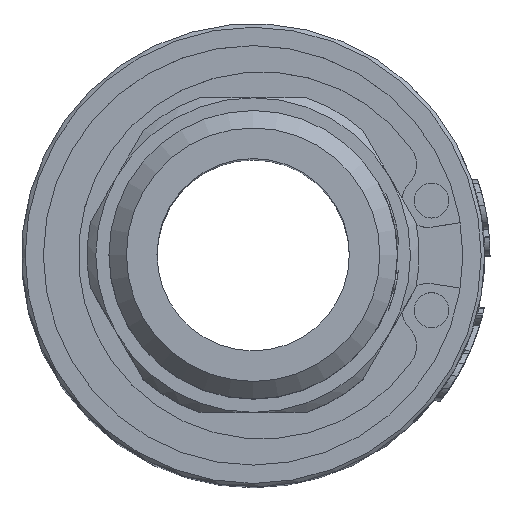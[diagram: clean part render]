
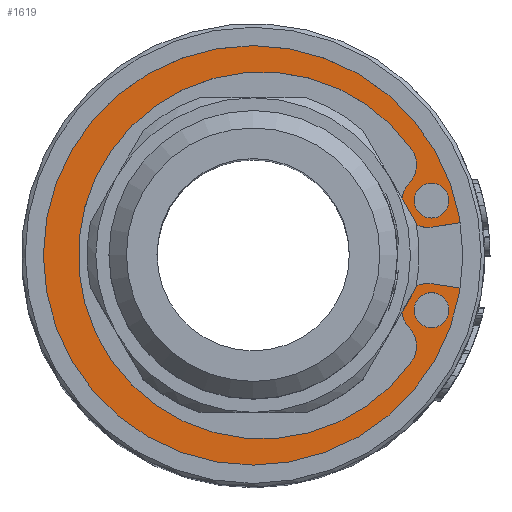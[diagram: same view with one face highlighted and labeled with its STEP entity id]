
A CAD part, top view. The second image highlights one B-rep face of the part: STEP entity #1619.
In plain terms, the highlighted planar face has unit normal (0, 0, 1).
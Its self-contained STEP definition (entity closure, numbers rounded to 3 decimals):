
#194=FACE_BOUND('',#3814,.T.);
#195=FACE_BOUND('',#3815,.T.);
#196=FACE_BOUND('',#3816,.T.);
#279=CIRCLE('',#17654,12.6);
#304=CIRCLE('',#17697,1.5);
#305=CIRCLE('',#17699,1.5);
#306=CIRCLE('',#17701,0.75);
#307=CIRCLE('',#17704,0.75);
#308=CIRCLE('',#17706,1.5);
#309=CIRCLE('',#17708,1.5);
#310=CIRCLE('',#17711,10.5);
#311=CIRCLE('',#17713,1.);
#312=CIRCLE('',#17714,1.);
#1619=ADVANCED_FACE('',(#194,#195,#196),#2145,.T.);
#2145=PLANE('',#17715);
#3814=EDGE_LOOP('',(#8496,#8497,#8498,#8499,#8500,#8501,#8502,#8503,#8504,
#8505));
#3815=EDGE_LOOP('',(#8506));
#3816=EDGE_LOOP('',(#8507));
#4381=LINE('',#33474,#5092);
#4386=LINE('',#33490,#5097);
#5092=VECTOR('',#19154,1.);
#5097=VECTOR('',#19173,1.);
#8496=ORIENTED_EDGE('',*,*,#14134,.T.);
#8497=ORIENTED_EDGE('',*,*,#14089,.F.);
#8498=ORIENTED_EDGE('',*,*,#14138,.F.);
#8499=ORIENTED_EDGE('',*,*,#14144,.T.);
#8500=ORIENTED_EDGE('',*,*,#14142,.F.);
#8501=ORIENTED_EDGE('',*,*,#14140,.F.);
#8502=ORIENTED_EDGE('',*,*,#14145,.F.);
#8503=ORIENTED_EDGE('',*,*,#14130,.T.);
#8504=ORIENTED_EDGE('',*,*,#14132,.T.);
#8505=ORIENTED_EDGE('',*,*,#14136,.F.);
#8506=ORIENTED_EDGE('',*,*,#14146,.F.);
#8507=ORIENTED_EDGE('',*,*,#14147,.T.);
#11724=VERTEX_POINT('',#33356);
#11726=VERTEX_POINT('',#33359);
#11758=VERTEX_POINT('',#33461);
#11759=VERTEX_POINT('',#33463);
#11760=VERTEX_POINT('',#33467);
#11761=VERTEX_POINT('',#33471);
#11762=VERTEX_POINT('',#33477);
#11763=VERTEX_POINT('',#33481);
#11764=VERTEX_POINT('',#33483);
#11765=VERTEX_POINT('',#33487);
#11766=VERTEX_POINT('',#33495);
#11767=VERTEX_POINT('',#33497);
#14089=EDGE_CURVE('',#11724,#11726,#279,.T.);
#14130=EDGE_CURVE('',#11759,#11758,#304,.T.);
#14132=EDGE_CURVE('',#11758,#11760,#305,.T.);
#14134=EDGE_CURVE('',#11761,#11726,#306,.T.);
#14136=EDGE_CURVE('',#11761,#11760,#4381,.T.);
#14138=EDGE_CURVE('',#11762,#11724,#307,.T.);
#14140=EDGE_CURVE('',#11763,#11764,#308,.T.);
#14142=EDGE_CURVE('',#11764,#11765,#309,.T.);
#14144=EDGE_CURVE('',#11762,#11765,#4386,.T.);
#14145=EDGE_CURVE('',#11759,#11763,#310,.T.);
#14146=EDGE_CURVE('',#11766,#11766,#311,.T.);
#14147=EDGE_CURVE('',#11767,#11767,#312,.T.);
#17654=AXIS2_PLACEMENT_3D('',#33358,#19041,#19042);
#17697=AXIS2_PLACEMENT_3D('',#33462,#19139,#19140);
#17699=AXIS2_PLACEMENT_3D('',#33466,#19144,#19145);
#17701=AXIS2_PLACEMENT_3D('',#33470,#19149,#19150);
#17704=AXIS2_PLACEMENT_3D('',#33478,#19158,#19159);
#17706=AXIS2_PLACEMENT_3D('',#33482,#19163,#19164);
#17708=AXIS2_PLACEMENT_3D('',#33486,#19168,#19169);
#17711=AXIS2_PLACEMENT_3D('',#33492,#19176,#19177);
#17713=AXIS2_PLACEMENT_3D('',#33494,#19180,#19181);
#17714=AXIS2_PLACEMENT_3D('',#33496,#19182,#19183);
#17715=AXIS2_PLACEMENT_3D('',#33498,#19184,#19185);
#19041=DIRECTION('',(0.,0.,-1.));
#19042=DIRECTION('',(1.,0.,0.));
#19139=DIRECTION('',(0.,0.,-1.));
#19140=DIRECTION('',(1.,0.,0.));
#19144=DIRECTION('',(0.,0.,1.));
#19145=DIRECTION('',(1.,0.,0.));
#19149=DIRECTION('',(0.,0.,1.));
#19150=DIRECTION('',(1.,0.,0.));
#19154=DIRECTION('',(-0.988,-0.156,0.));
#19158=DIRECTION('',(0.,0.,-1.));
#19159=DIRECTION('',(1.,0.,0.));
#19163=DIRECTION('',(0.,0.,1.));
#19164=DIRECTION('',(1.,0.,0.));
#19168=DIRECTION('',(0.,0.,-1.));
#19169=DIRECTION('',(1.,0.,0.));
#19173=DIRECTION('',(-0.988,0.156,0.));
#19176=DIRECTION('',(0.,0.,1.));
#19177=DIRECTION('',(1.,0.,0.));
#19180=DIRECTION('',(0.,0.,1.));
#19181=DIRECTION('',(1.,0.,0.));
#19182=DIRECTION('',(0.,0.,-1.));
#19183=DIRECTION('',(1.,0.,0.));
#19184=DIRECTION('',(0.,0.,1.));
#19185=DIRECTION('',(-1.,0.,0.));
#33356=CARTESIAN_POINT('',(12.295,-2.755,34.7));
#33358=CARTESIAN_POINT('',(0.,0.,34.7));
#33359=CARTESIAN_POINT('',(12.295,2.755,34.7));
#33461=CARTESIAN_POINT('',(8.929,4.147,34.7));
#33462=CARTESIAN_POINT('',(7.852,5.191,34.7));
#33463=CARTESIAN_POINT('',(9.077,6.057,34.7));
#33466=CARTESIAN_POINT('',(10.006,3.104,34.7));
#33467=CARTESIAN_POINT('',(10.241,1.622,34.7));
#33470=CARTESIAN_POINT('',(11.563,2.591,34.7));
#33471=CARTESIAN_POINT('',(11.681,1.85,34.7));
#33474=CARTESIAN_POINT('',(0.,0.,34.7));
#33477=CARTESIAN_POINT('',(11.681,-1.85,34.7));
#33478=CARTESIAN_POINT('',(11.563,-2.591,34.7));
#33481=CARTESIAN_POINT('',(9.077,-6.057,34.7));
#33482=CARTESIAN_POINT('',(7.852,-5.191,34.7));
#33483=CARTESIAN_POINT('',(8.929,-4.147,34.7));
#33486=CARTESIAN_POINT('',(10.006,-3.104,34.7));
#33487=CARTESIAN_POINT('',(10.241,-1.622,34.7));
#33490=CARTESIAN_POINT('',(0.,0.,34.7));
#33492=CARTESIAN_POINT('',(0.5,0.,34.7));
#33494=CARTESIAN_POINT('',(10.204,3.135,34.7));
#33495=CARTESIAN_POINT('',(11.204,3.135,34.7));
#33496=CARTESIAN_POINT('',(10.204,-3.135,34.7));
#33497=CARTESIAN_POINT('',(11.204,-3.135,34.7));
#33498=CARTESIAN_POINT('',(0.,0.,34.7));
